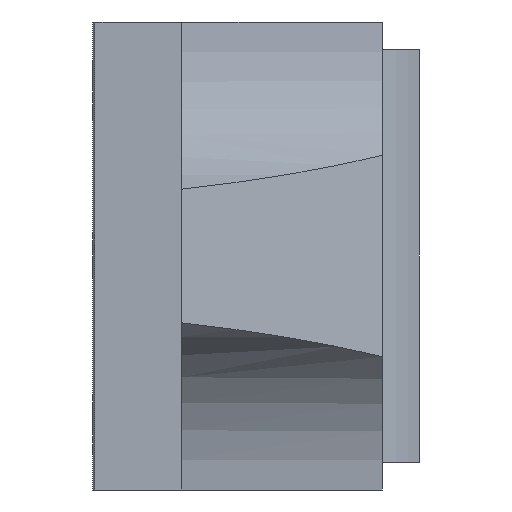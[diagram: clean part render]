
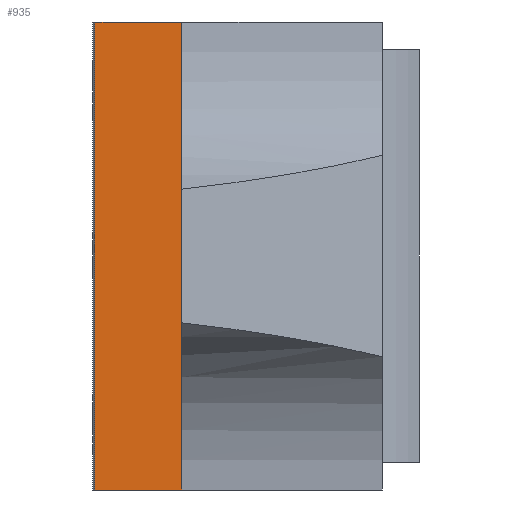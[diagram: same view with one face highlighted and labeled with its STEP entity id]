
A CAD part, left-side view. The second image highlights one B-rep face of the part: STEP entity #935.
In plain terms, the highlighted planar face has unit normal (-1, 0, 0).
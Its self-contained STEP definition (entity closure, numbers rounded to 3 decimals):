
#94=FACE_OUTER_BOUND('',#149,.T.);
#149=EDGE_LOOP('',(#663,#664,#665,#666,#667,#668));
#227=LINE('',#1430,#323);
#237=LINE('',#1450,#333);
#240=LINE('',#1456,#336);
#241=LINE('',#1458,#337);
#242=LINE('',#1460,#338);
#243=LINE('',#1461,#339);
#323=VECTOR('',#1132,10.);
#333=VECTOR('',#1144,10.);
#336=VECTOR('',#1149,10.);
#337=VECTOR('',#1150,10.);
#338=VECTOR('',#1151,10.);
#339=VECTOR('',#1152,10.);
#420=VERTEX_POINT('',#1427);
#421=VERTEX_POINT('',#1429);
#430=VERTEX_POINT('',#1449);
#432=VERTEX_POINT('',#1455);
#433=VERTEX_POINT('',#1457);
#434=VERTEX_POINT('',#1459);
#509=EDGE_CURVE('',#420,#421,#227,.T.);
#519=EDGE_CURVE('',#421,#430,#237,.T.);
#522=EDGE_CURVE('',#432,#420,#240,.T.);
#523=EDGE_CURVE('',#433,#432,#241,.T.);
#524=EDGE_CURVE('',#434,#433,#242,.T.);
#525=EDGE_CURVE('',#430,#434,#243,.T.);
#663=ORIENTED_EDGE('',*,*,#519,.F.);
#664=ORIENTED_EDGE('',*,*,#509,.F.);
#665=ORIENTED_EDGE('',*,*,#522,.F.);
#666=ORIENTED_EDGE('',*,*,#523,.F.);
#667=ORIENTED_EDGE('',*,*,#524,.F.);
#668=ORIENTED_EDGE('',*,*,#525,.F.);
#903=PLANE('',#1014);
#935=ADVANCED_FACE('',(#94),#903,.T.);
#1014=AXIS2_PLACEMENT_3D('',#1454,#1147,#1148);
#1132=DIRECTION('',(0.,1.,0.));
#1144=DIRECTION('',(0.,0.,1.));
#1147=DIRECTION('center_axis',(-1.,0.,0.));
#1148=DIRECTION('ref_axis',(0.,1.,0.));
#1149=DIRECTION('',(0.,0.,-1.));
#1150=DIRECTION('',(0.,0.,-1.));
#1151=DIRECTION('',(0.,0.,-1.));
#1152=DIRECTION('',(0.,-1.,0.));
#1427=CARTESIAN_POINT('',(-31.,10.,-21.));
#1429=CARTESIAN_POINT('',(-31.,17.8,-21.));
#1430=CARTESIAN_POINT('',(-31.,18.,-21.));
#1449=CARTESIAN_POINT('',(-31.,17.8,21.));
#1450=CARTESIAN_POINT('',(-31.,17.8,21.));
#1454=CARTESIAN_POINT('Origin',(-31.,10.,21.));
#1455=CARTESIAN_POINT('',(-31.,10.,-6.));
#1456=CARTESIAN_POINT('',(-31.,10.,21.));
#1457=CARTESIAN_POINT('',(-31.,10.,6.));
#1458=CARTESIAN_POINT('',(-31.,10.,21.));
#1459=CARTESIAN_POINT('',(-31.,10.,21.));
#1460=CARTESIAN_POINT('',(-31.,10.,21.));
#1461=CARTESIAN_POINT('',(-31.,18.,21.));
